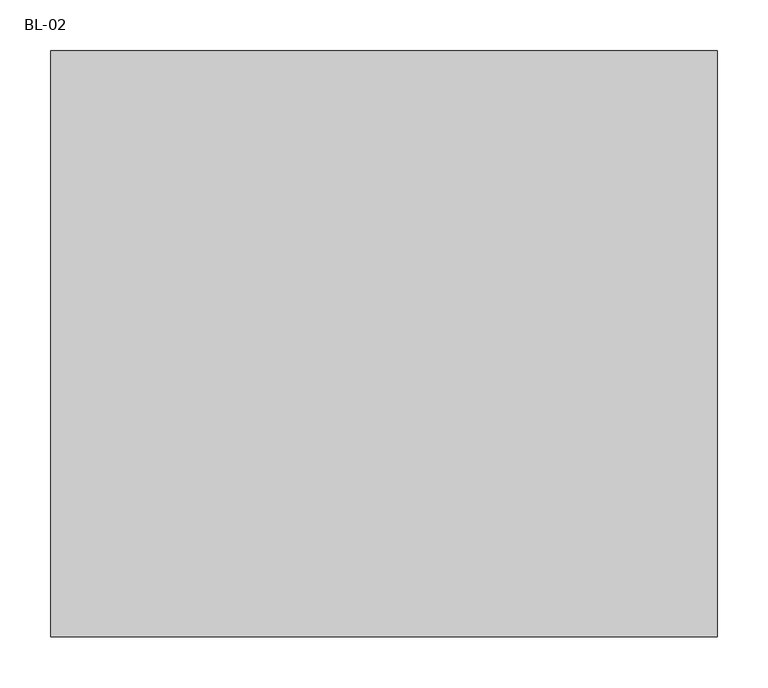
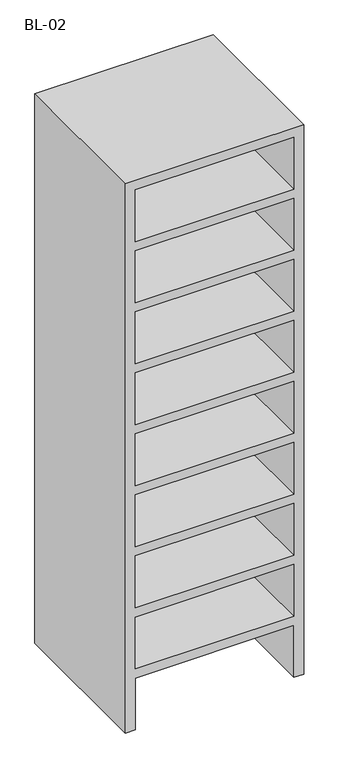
"""IFC4 building model written with IfcOpenShell, lengths in millimetres: furniture geometry, 8 ESTANTES-BLANCOS : BL-02."""

from ifc_helpers import new_model, si_unit, frame, origin, place, context, project, spatial, polyline, outline, extrude, source, transform, mapped, element, save


def bl_02_8ba3f790(model_context):
    return source(origin(), model_context, "Body", "SweptSolid", [
        extrude(outline(polyline([(0.0, -636.0697951), (0.0, -600.0697951), (202.8888889, -600.0697951), (202.8888889, -12.0697951), (0.0, -12.0697951), (0.0, 23.9302049), (2150.0, 23.9302049), (2150.0, -636.0697951), (0.0, -636.0697951)]), holes=[polyline([(1397.3333333, -12.0697951), (1194.4444444, -12.0697951), (1194.4444444, -600.0697951), (1397.3333333, -600.0697951), (1397.3333333, -12.0697951)]), polyline([(716.6666667, -600.0697951), (919.5555556, -600.0697951), (919.5555556, -12.0697951), (716.6666667, -12.0697951), (716.6666667, -600.0697951)]), polyline([(477.7777778, -600.0697951), (680.6666667, -600.0697951), (680.6666667, -12.0697951), (477.7777778, -12.0697951), (477.7777778, -600.0697951)]), polyline([(238.8888889, -600.0697951), (441.7777778, -600.0697951), (441.7777778, -12.0697951), (238.8888889, -12.0697951), (238.8888889, -600.0697951)]), polyline([(955.5555556, -12.0697951), (955.5555556, -600.0697951), (1158.4444444, -600.0697951), (1158.4444444, -12.0697951), (955.5555556, -12.0697951)]), polyline([(1911.1111111, -600.0697951), (2114.0, -600.0697951), (2114.0, -12.0697951), (1911.1111111, -12.0697951), (1911.1111111, -600.0697951)]), polyline([(1433.3333333, -12.0697951), (1433.3333333, -600.0697951), (1636.2222222, -600.0697951), (1636.2222222, -12.0697951), (1433.3333333, -12.0697951)]), polyline([(1875.1111111, -600.0697951), (1875.1111111, -12.0697951), (1672.2222222, -12.0697951), (1672.2222222, -600.0697951), (1875.1111111, -600.0697951)])]), frame((0.0, 100.0, 0.0), z_axis=(0.0, 1.0, 0.0), x_axis=(0.0, 0.0, 1.0)), (0.0, 0.0, 1.0), 580.0),
    ])


if __name__ == "__main__":
    model = new_model("IFC4")
    model_context = context("Model", 3, world=origin())
    ifc_project = project(units=[si_unit("LENGTHUNIT", "METRE", prefix="MILLI")], contexts=[model_context])
    site = spatial("IfcSite", under=ifc_project)
    building = spatial("IfcBuilding", under=site)
    placement = place(None, origin())
    bl_02_shape = bl_02_8ba3f790(model_context)
    element("IfcFurniture", 1, ObjectType="8 ESTANTES-BLANCOS : BL-02", at=placement, inside=building, context=model_context, shape_type="MappedRepresentation", body=[
        mapped(bl_02_shape, transform((0.0, 0.0, 0.0), x_axis=(1.0, 0.0, 0.0), y_axis=(0.0, 1.0, 0.0), z_axis=(0.0, 0.0, 1.0))),
    ])
    save(model, "model.ifc")
